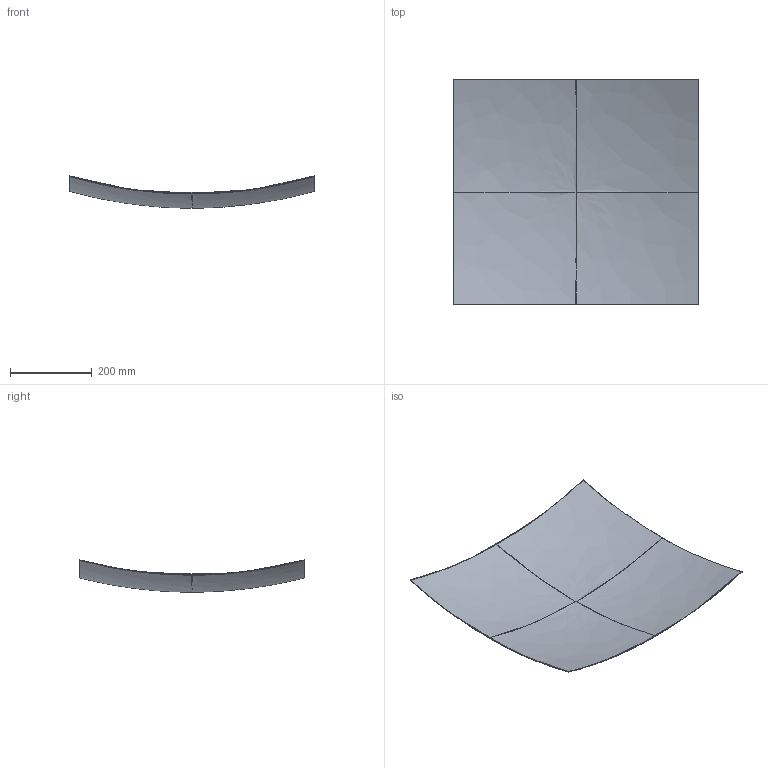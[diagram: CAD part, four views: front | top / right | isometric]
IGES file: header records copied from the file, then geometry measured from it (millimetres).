
Start section: C
Global section: file name: CF_mirror_backing.igs; native system:  By UGS Corp.; preprocessor: XPlus GENERIC/IGES 3.0; author: Author; organization: Title; date: 20110219.171458; units: millimetre
Bounding box: 600 x 550 x 79.32 mm (x, y, z)
Surface area: 679334.3 mm2 (no closed solid volume)
Topology: 0 solids, 0 shells, 12 faces, 64 edges, 56 vertices
Faces by surface type: bspline 12
